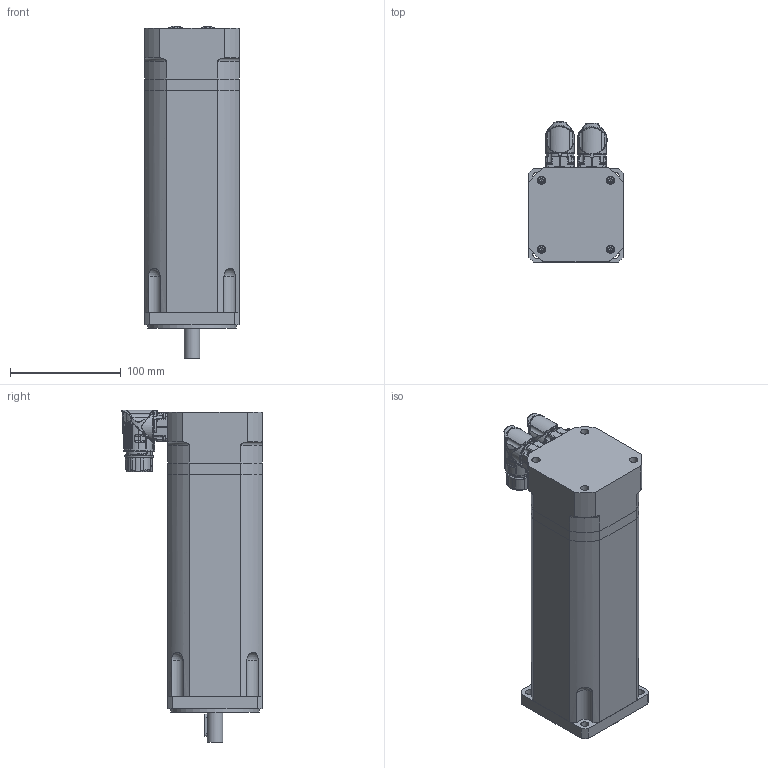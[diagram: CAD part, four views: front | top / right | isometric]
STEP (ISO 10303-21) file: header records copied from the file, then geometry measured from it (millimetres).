
FILE_DESCRIPTION(/* description */ (''),/* implementation_level */ '2;1');
FILE_NAME(/* name */ 'C:\Users\Public\Documents\Autodesk\Inventor LT 2014\Workspace\TG3\DSM5_3x_xxx7\DSM5_34_x1x7.stp',/* time_stamp */ '2016-04-28T10:18:17+02:00',/* author */ ('motion'),/* organization */ (''),/* preprocessor_version */ 'ST-DEVELOPER v15.2',/* originating_system */ 'Autodesk Inventor LT ',/* authorisation */ '');
FILE_SCHEMA (('AUTOMOTIVE_DESIGN { 1 0 10303 214 3 1 1 }'));
Products named in the file (1): DSM5_34_x1x7
Bounding box: 85 x 126.43 x 299.41 mm (x, y, z)
Volume: 1851339.8 mm3; surface area: 166568.2 mm2
Topology: 15 solids, 17 shells, 3061 faces, 7703 edges, 4630 vertices
Faces by surface type: cylinder 880, bspline 853, plane 596, torus 382, cone 229, sphere 121
Full cylindrical faces by diameter (mm): 1.2 x17, 2 x6, 2.15 x6, 2.224 x8, 2.5 x8, 2.7 x8, 3 x1, 4 x8, 4.134 x1, 4.5 x2, 5 x4, 5.5 x3, 5.9 x2, 7 x12, 7.2 x4, 7.5 x4, 14 x1, 15 x1, 15.2 x1, 19.1 x1, 21.6 x1, 22.5 x1, 23 x2, 24.4 x1, 28 x1, 35 x2, 60 x1, 80 x1
Entity records: 189383 total; most frequent: CARTESIAN_POINT 120010, ORIENTED_EDGE 14494, DIRECTION 12705, EDGE_CURVE 7247, AXIS2_PLACEMENT_3D 5470, VERTEX_POINT 4541, EDGE_LOOP 3460, ADVANCED_FACE 3057
